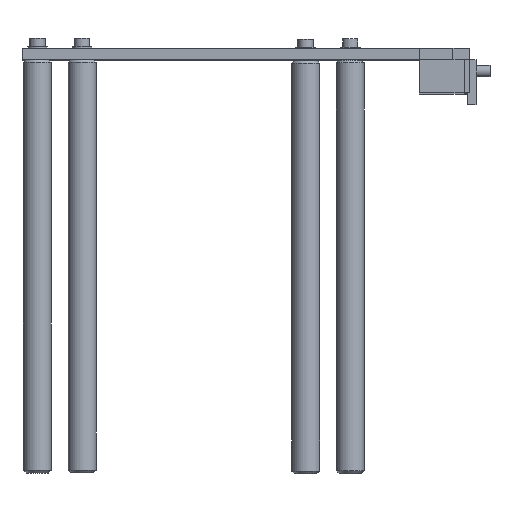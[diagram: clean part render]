
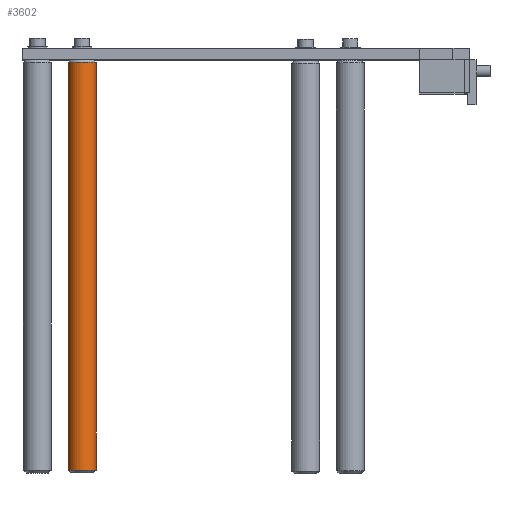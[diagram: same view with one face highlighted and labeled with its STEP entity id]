
A CAD part, top view. The second image highlights one B-rep face of the part: STEP entity #3602.
In plain terms, the highlighted cylindrical face has radius 5 mm (diameter 10 mm), a full revolution.
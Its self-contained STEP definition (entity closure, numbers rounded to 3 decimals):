
#3602 = ADVANCED_FACE('',(#3603),#3617,.T.);
#3603 = FACE_BOUND('',#3604,.T.);
#3604 = EDGE_LOOP('',(#3605,#3635,#3662,#3663));
#3605 = ORIENTED_EDGE('',*,*,#3606,.T.);
#3606 = EDGE_CURVE('',#3607,#3609,#3611,.T.);
#3607 = VERTEX_POINT('',#3608);
#3608 = CARTESIAN_POINT('',(22.5,-145.,106.));
#3609 = VERTEX_POINT('',#3610);
#3610 = CARTESIAN_POINT('',(22.5,1.,106.));
#3611 = SEAM_CURVE('',#3612,(#3616,#3628),.PCURVE_S1.);
#3612 = LINE('',#3613,#3614);
#3613 = CARTESIAN_POINT('',(22.5,-146.,106.));
#3614 = VECTOR('',#3615,1.);
#3615 = DIRECTION('',(0.,1.,0.));
#3616 = PCURVE('',#3617,#3622);
#3617 = CYLINDRICAL_SURFACE('',#3618,5.);
#3618 = AXIS2_PLACEMENT_3D('',#3619,#3620,#3621);
#3619 = CARTESIAN_POINT('',(22.5,-146.,101.));
#3620 = DIRECTION('',(0.,1.,0.));
#3621 = DIRECTION('',(0.,-0.,1.));
#3622 = DEFINITIONAL_REPRESENTATION('',(#3623),#3627);
#3623 = LINE('',#3624,#3625);
#3624 = CARTESIAN_POINT('',(6.283,-0.));
#3625 = VECTOR('',#3626,1.);
#3626 = DIRECTION('',(0.,1.));
#3627 = ( GEOMETRIC_REPRESENTATION_CONTEXT(2) 
PARAMETRIC_REPRESENTATION_CONTEXT() REPRESENTATION_CONTEXT('2D SPACE',''
  ) );
#3628 = PCURVE('',#3617,#3629);
#3629 = DEFINITIONAL_REPRESENTATION('',(#3630),#3634);
#3630 = LINE('',#3631,#3632);
#3631 = CARTESIAN_POINT('',(0.,-0.));
#3632 = VECTOR('',#3633,1.);
#3633 = DIRECTION('',(0.,1.));
#3634 = ( GEOMETRIC_REPRESENTATION_CONTEXT(2) 
PARAMETRIC_REPRESENTATION_CONTEXT() REPRESENTATION_CONTEXT('2D SPACE',''
  ) );
#3635 = ORIENTED_EDGE('',*,*,#3636,.F.);
#3636 = EDGE_CURVE('',#3609,#3609,#3637,.T.);
#3637 = SURFACE_CURVE('',#3638,(#3643,#3650),.PCURVE_S1.);
#3638 = CIRCLE('',#3639,5.);
#3639 = AXIS2_PLACEMENT_3D('',#3640,#3641,#3642);
#3640 = CARTESIAN_POINT('',(22.5,1.,101.));
#3641 = DIRECTION('',(0.,1.,0.));
#3642 = DIRECTION('',(0.,-0.,1.));
#3643 = PCURVE('',#3617,#3644);
#3644 = DEFINITIONAL_REPRESENTATION('',(#3645),#3649);
#3645 = LINE('',#3646,#3647);
#3646 = CARTESIAN_POINT('',(0.,147.));
#3647 = VECTOR('',#3648,1.);
#3648 = DIRECTION('',(1.,0.));
#3649 = ( GEOMETRIC_REPRESENTATION_CONTEXT(2) 
PARAMETRIC_REPRESENTATION_CONTEXT() REPRESENTATION_CONTEXT('2D SPACE',''
  ) );
#3650 = PCURVE('',#3651,#3656);
#3651 = CONICAL_SURFACE('',#3652,5.,0.785);
#3652 = AXIS2_PLACEMENT_3D('',#3653,#3654,#3655);
#3653 = CARTESIAN_POINT('',(22.5,1.,101.));
#3654 = DIRECTION('',(-0.,-1.,-0.));
#3655 = DIRECTION('',(0.,0.,1.));
#3656 = DEFINITIONAL_REPRESENTATION('',(#3657),#3661);
#3657 = LINE('',#3658,#3659);
#3658 = CARTESIAN_POINT('',(-0.,-0.));
#3659 = VECTOR('',#3660,1.);
#3660 = DIRECTION('',(-1.,-0.));
#3661 = ( GEOMETRIC_REPRESENTATION_CONTEXT(2) 
PARAMETRIC_REPRESENTATION_CONTEXT() REPRESENTATION_CONTEXT('2D SPACE',''
  ) );
#3662 = ORIENTED_EDGE('',*,*,#3606,.F.);
#3663 = ORIENTED_EDGE('',*,*,#3664,.T.);
#3664 = EDGE_CURVE('',#3607,#3607,#3665,.T.);
#3665 = SURFACE_CURVE('',#3666,(#3671,#3678),.PCURVE_S1.);
#3666 = CIRCLE('',#3667,5.);
#3667 = AXIS2_PLACEMENT_3D('',#3668,#3669,#3670);
#3668 = CARTESIAN_POINT('',(22.5,-145.,101.));
#3669 = DIRECTION('',(0.,1.,0.));
#3670 = DIRECTION('',(0.,-0.,1.));
#3671 = PCURVE('',#3617,#3672);
#3672 = DEFINITIONAL_REPRESENTATION('',(#3673),#3677);
#3673 = LINE('',#3674,#3675);
#3674 = CARTESIAN_POINT('',(0.,1.));
#3675 = VECTOR('',#3676,1.);
#3676 = DIRECTION('',(1.,0.));
#3677 = ( GEOMETRIC_REPRESENTATION_CONTEXT(2) 
PARAMETRIC_REPRESENTATION_CONTEXT() REPRESENTATION_CONTEXT('2D SPACE',''
  ) );
#3678 = PCURVE('',#3679,#3684);
#3679 = CONICAL_SURFACE('',#3680,5.,0.785);
#3680 = AXIS2_PLACEMENT_3D('',#3681,#3682,#3683);
#3681 = CARTESIAN_POINT('',(22.5,-145.,101.));
#3682 = DIRECTION('',(0.,1.,0.));
#3683 = DIRECTION('',(0.,-0.,1.));
#3684 = DEFINITIONAL_REPRESENTATION('',(#3685),#3689);
#3685 = LINE('',#3686,#3687);
#3686 = CARTESIAN_POINT('',(0.,-0.));
#3687 = VECTOR('',#3688,1.);
#3688 = DIRECTION('',(1.,-0.));
#3689 = ( GEOMETRIC_REPRESENTATION_CONTEXT(2) 
PARAMETRIC_REPRESENTATION_CONTEXT() REPRESENTATION_CONTEXT('2D SPACE',''
  ) );
